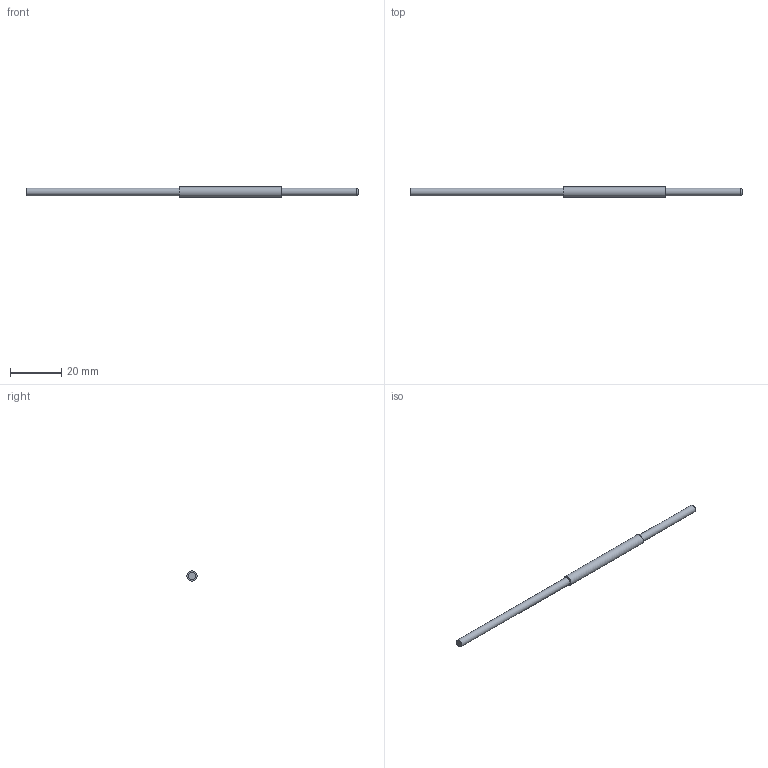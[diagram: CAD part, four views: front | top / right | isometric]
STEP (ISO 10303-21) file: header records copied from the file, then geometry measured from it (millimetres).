
FILE_DESCRIPTION(/* description */ (''),/* implementation_level */ '2;1');
FILE_NAME(/* name */ 'C:\Evgeny\Noga Works\_Noga MT Brush\solidcam\CROSS-HOLES D3 UF2130.stp',/* time_stamp */ '2025-03-23T08:37:13+02:00',/* author */ ('evgeny'),/* organization */ (''),/* preprocessor_version */ 'ST-DEVELOPER v20',/* originating_system */ 'Autodesk Inventor 2022',/* authorisation */ '');
FILE_SCHEMA (('AUTOMOTIVE_DESIGN { 1 0 10303 214 3 1 1 }'));
Length unit declared in the file: millimetre
Products named in the file (1): POINT-BRUSH D2.5 UF3125
Bounding box: 130 x 4 x 4 mm (x, y, z)
Volume: 1137.8 mm3; surface area: 1387.1 mm2
Topology: 2 solids, 2 shells, 9 faces, 12 edges, 8 vertices
Faces by surface type: plane 5, cylinder 3, cone 1
Full cylindrical faces by diameter (mm): 3 x2, 4 x1
Entity records: 243 total; most frequent: DIRECTION 40, CARTESIAN_POINT 30, ORIENTED_EDGE 24, AXIS2_PLACEMENT_3D 18, EDGE_CURVE 12, EDGE_LOOP 10, FACE_OUTER_BOUND 9, ADVANCED_FACE 9
